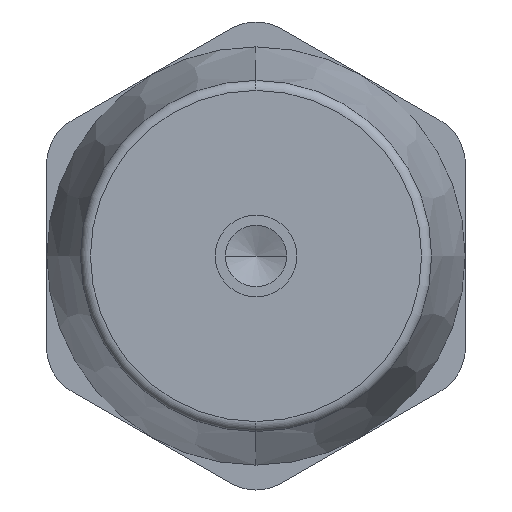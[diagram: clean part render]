
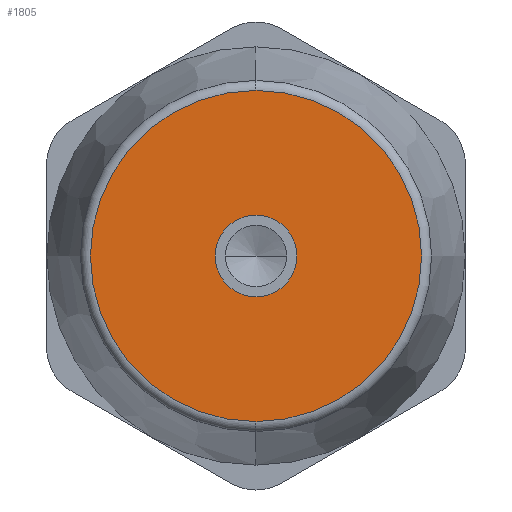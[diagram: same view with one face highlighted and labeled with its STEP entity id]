
A CAD part, front view. The second image highlights one B-rep face of the part: STEP entity #1805.
In plain terms, the highlighted planar face has unit normal (0, -1, 0).
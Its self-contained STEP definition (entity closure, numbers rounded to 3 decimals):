
#38 = AXIS2_PLACEMENT_3D ( 'NONE', #60, #1955, #1473 ) ;
#59 = EDGE_CURVE ( 'NONE', #546, #523, #726, .T. ) ;
#60 = CARTESIAN_POINT ( 'NONE',  ( 0., 0., 0. ) ) ;
#134 = EDGE_LOOP ( 'NONE', ( #1002, #795 ) ) ;
#220 = DIRECTION ( 'NONE',  ( -1., 0., 0. ) ) ;
#386 = AXIS2_PLACEMENT_3D ( 'NONE', #719, #411, #220 ) ;
#411 = DIRECTION ( 'NONE',  ( 0., 1., 0. ) ) ;
#523 = VERTEX_POINT ( 'NONE', #922 ) ;
#546 = VERTEX_POINT ( 'NONE', #1766 ) ;
#631 = CARTESIAN_POINT ( 'NONE',  ( 20.5, 0., -11.836 ) ) ;
#641 = DIRECTION ( 'NONE',  ( 0., 1., 0. ) ) ;
#671 = AXIS2_PLACEMENT_3D ( 'NONE', #631, #641, #947 ) ;
#719 = CARTESIAN_POINT ( 'NONE',  ( 0., 0., 0. ) ) ;
#726 = CIRCLE ( 'NONE', #998, 4. ) ;
#795 = ORIENTED_EDGE ( 'NONE', *, *, #1565, .T. ) ;
#818 = EDGE_LOOP ( 'NONE', ( #1204, #1984 ) ) ;
#821 = VERTEX_POINT ( 'NONE', #1335 ) ;
#829 = EDGE_CURVE ( 'NONE', #523, #546, #1663, .T. ) ;
#901 = CIRCLE ( 'NONE', #38, 16.205 ) ;
#922 = CARTESIAN_POINT ( 'NONE',  ( -4., 0., 0. ) ) ;
#947 = DIRECTION ( 'NONE',  ( 0., 0., 1. ) ) ;
#975 = EDGE_CURVE ( 'NONE', #1053, #821, #1736, .T. ) ;
#998 = AXIS2_PLACEMENT_3D ( 'NONE', #1952, #1790, #1637 ) ;
#1002 = ORIENTED_EDGE ( 'NONE', *, *, #975, .T. ) ;
#1053 = VERTEX_POINT ( 'NONE', #1599 ) ;
#1204 = ORIENTED_EDGE ( 'NONE', *, *, #829, .T. ) ;
#1299 = AXIS2_PLACEMENT_3D ( 'NONE', #1723, #2080, #1899 ) ;
#1335 = CARTESIAN_POINT ( 'NONE',  ( 0., 0., -16.205 ) ) ;
#1473 = DIRECTION ( 'NONE',  ( 0., 0., 1. ) ) ;
#1565 = EDGE_CURVE ( 'NONE', #821, #1053, #901, .T. ) ;
#1571 = FACE_BOUND ( 'NONE', #818, .T. ) ;
#1599 = CARTESIAN_POINT ( 'NONE',  ( 0., 0., 16.205 ) ) ;
#1637 = DIRECTION ( 'NONE',  ( -1., 0., 0. ) ) ;
#1663 = CIRCLE ( 'NONE', #386, 4. ) ;
#1723 = CARTESIAN_POINT ( 'NONE',  ( 0., 0., 0. ) ) ;
#1736 = CIRCLE ( 'NONE', #1299, 16.205 ) ;
#1752 = FACE_OUTER_BOUND ( 'NONE', #134, .T. ) ;
#1761 = PLANE ( 'NONE',  #671 ) ;
#1766 = CARTESIAN_POINT ( 'NONE',  ( 4., 0., 0. ) ) ;
#1790 = DIRECTION ( 'NONE',  ( 0., 1., 0. ) ) ;
#1805 = ADVANCED_FACE ( 'NONE', ( #1571, #1752 ), #1761, .F. ) ;
#1899 = DIRECTION ( 'NONE',  ( 0., 0., 1. ) ) ;
#1952 = CARTESIAN_POINT ( 'NONE',  ( 0., 0., 0. ) ) ;
#1955 = DIRECTION ( 'NONE',  ( 0., -1., 0. ) ) ;
#1984 = ORIENTED_EDGE ( 'NONE', *, *, #59, .T. ) ;
#2080 = DIRECTION ( 'NONE',  ( 0., -1., 0. ) ) ;
